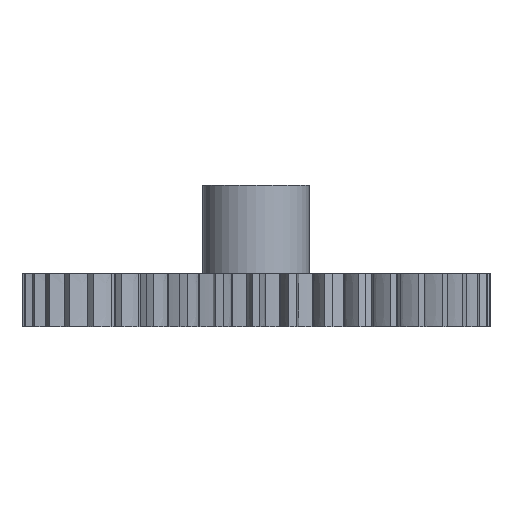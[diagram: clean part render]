
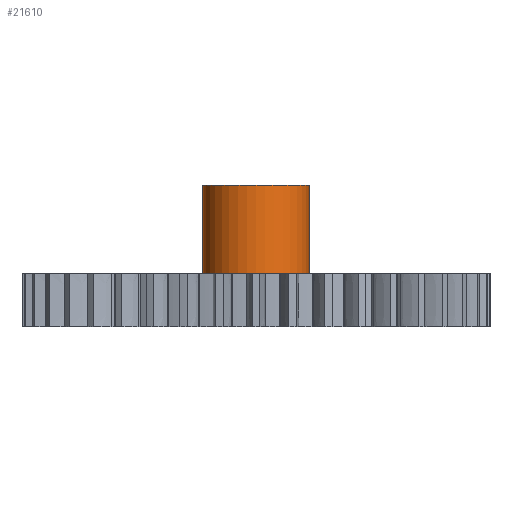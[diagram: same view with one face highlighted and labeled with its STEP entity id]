
A CAD part, front view. The second image highlights one B-rep face of the part: STEP entity #21610.
In plain terms, the highlighted cylindrical face has radius 4.5 mm (diameter 9 mm), a full revolution.
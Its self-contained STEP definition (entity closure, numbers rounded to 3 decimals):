
#72 = PLANE('',#73);
#73 = AXIS2_PLACEMENT_3D('',#74,#75,#76);
#74 = CARTESIAN_POINT('',(0.,0.,
    4.5));
#75 = DIRECTION('',(0.,0.,1.));
#76 = DIRECTION('',(1.,0.,-0.));
#14935 = EDGE_CURVE('',#14936,#14936,#14938,.T.);
#14936 = VERTEX_POINT('',#14937);
#14937 = CARTESIAN_POINT('',(4.5,0.,4.5));
#14938 = SURFACE_CURVE('',#14939,(#14944,#14951),.PCURVE_S1.);
#14939 = CIRCLE('',#14940,4.5);
#14940 = AXIS2_PLACEMENT_3D('',#14941,#14942,#14943);
#14941 = CARTESIAN_POINT('',(0.,0.,4.5));
#14942 = DIRECTION('',(0.,0.,1.));
#14943 = DIRECTION('',(1.,0.,-0.));
#14944 = PCURVE('',#72,#14945);
#14945 = DEFINITIONAL_REPRESENTATION('',(#14946),#14950);
#14946 = CIRCLE('',#14947,4.5);
#14947 = AXIS2_PLACEMENT_2D('',#14948,#14949);
#14948 = CARTESIAN_POINT('',(0.,0.));
#14949 = DIRECTION('',(1.,0.));
#14950 = ( GEOMETRIC_REPRESENTATION_CONTEXT(2) 
PARAMETRIC_REPRESENTATION_CONTEXT() REPRESENTATION_CONTEXT('2D SPACE',''
  ) );
#14951 = PCURVE('',#14952,#14957);
#14952 = CYLINDRICAL_SURFACE('',#14953,4.5);
#14953 = AXIS2_PLACEMENT_3D('',#14954,#14955,#14956);
#14954 = CARTESIAN_POINT('',(0.,0.,4.4));
#14955 = DIRECTION('',(0.,0.,1.));
#14956 = DIRECTION('',(1.,0.,-0.));
#14957 = DEFINITIONAL_REPRESENTATION('',(#14958),#14962);
#14958 = LINE('',#14959,#14960);
#14959 = CARTESIAN_POINT('',(0.,0.1));
#14960 = VECTOR('',#14961,1.);
#14961 = DIRECTION('',(1.,0.));
#14962 = ( GEOMETRIC_REPRESENTATION_CONTEXT(2) 
PARAMETRIC_REPRESENTATION_CONTEXT() REPRESENTATION_CONTEXT('2D SPACE',''
  ) );
#21495 = PLANE('',#21496);
#21496 = AXIS2_PLACEMENT_3D('',#21497,#21498,#21499);
#21497 = CARTESIAN_POINT('',(0.,0.,12.));
#21498 = DIRECTION('',(0.,0.,1.));
#21499 = DIRECTION('',(1.,0.,-0.));
#21610 = ADVANCED_FACE('',(#21611),#14952,.T.);
#21611 = FACE_BOUND('',#21612,.T.);
#21612 = EDGE_LOOP('',(#21613,#21636,#21658,#21659));
#21613 = ORIENTED_EDGE('',*,*,#21614,.T.);
#21614 = EDGE_CURVE('',#14936,#21615,#21617,.T.);
#21615 = VERTEX_POINT('',#21616);
#21616 = CARTESIAN_POINT('',(4.5,0.,12.));
#21617 = SEAM_CURVE('',#21618,(#21622,#21629),.PCURVE_S1.);
#21618 = LINE('',#21619,#21620);
#21619 = CARTESIAN_POINT('',(4.5,0.,4.4));
#21620 = VECTOR('',#21621,1.);
#21621 = DIRECTION('',(0.,0.,1.));
#21622 = PCURVE('',#14952,#21623);
#21623 = DEFINITIONAL_REPRESENTATION('',(#21624),#21628);
#21624 = LINE('',#21625,#21626);
#21625 = CARTESIAN_POINT('',(6.283,-0.));
#21626 = VECTOR('',#21627,1.);
#21627 = DIRECTION('',(0.,1.));
#21628 = ( GEOMETRIC_REPRESENTATION_CONTEXT(2) 
PARAMETRIC_REPRESENTATION_CONTEXT() REPRESENTATION_CONTEXT('2D SPACE',''
  ) );
#21629 = PCURVE('',#14952,#21630);
#21630 = DEFINITIONAL_REPRESENTATION('',(#21631),#21635);
#21631 = LINE('',#21632,#21633);
#21632 = CARTESIAN_POINT('',(0.,-0.));
#21633 = VECTOR('',#21634,1.);
#21634 = DIRECTION('',(0.,1.));
#21635 = ( GEOMETRIC_REPRESENTATION_CONTEXT(2) 
PARAMETRIC_REPRESENTATION_CONTEXT() REPRESENTATION_CONTEXT('2D SPACE',''
  ) );
#21636 = ORIENTED_EDGE('',*,*,#21637,.F.);
#21637 = EDGE_CURVE('',#21615,#21615,#21638,.T.);
#21638 = SURFACE_CURVE('',#21639,(#21644,#21651),.PCURVE_S1.);
#21639 = CIRCLE('',#21640,4.5);
#21640 = AXIS2_PLACEMENT_3D('',#21641,#21642,#21643);
#21641 = CARTESIAN_POINT('',(0.,0.,12.));
#21642 = DIRECTION('',(0.,0.,1.));
#21643 = DIRECTION('',(1.,0.,-0.));
#21644 = PCURVE('',#14952,#21645);
#21645 = DEFINITIONAL_REPRESENTATION('',(#21646),#21650);
#21646 = LINE('',#21647,#21648);
#21647 = CARTESIAN_POINT('',(0.,7.6));
#21648 = VECTOR('',#21649,1.);
#21649 = DIRECTION('',(1.,0.));
#21650 = ( GEOMETRIC_REPRESENTATION_CONTEXT(2) 
PARAMETRIC_REPRESENTATION_CONTEXT() REPRESENTATION_CONTEXT('2D SPACE',''
  ) );
#21651 = PCURVE('',#21495,#21652);
#21652 = DEFINITIONAL_REPRESENTATION('',(#21653),#21657);
#21653 = CIRCLE('',#21654,4.5);
#21654 = AXIS2_PLACEMENT_2D('',#21655,#21656);
#21655 = CARTESIAN_POINT('',(0.,0.));
#21656 = DIRECTION('',(1.,0.));
#21657 = ( GEOMETRIC_REPRESENTATION_CONTEXT(2) 
PARAMETRIC_REPRESENTATION_CONTEXT() REPRESENTATION_CONTEXT('2D SPACE',''
  ) );
#21658 = ORIENTED_EDGE('',*,*,#21614,.F.);
#21659 = ORIENTED_EDGE('',*,*,#14935,.T.);
